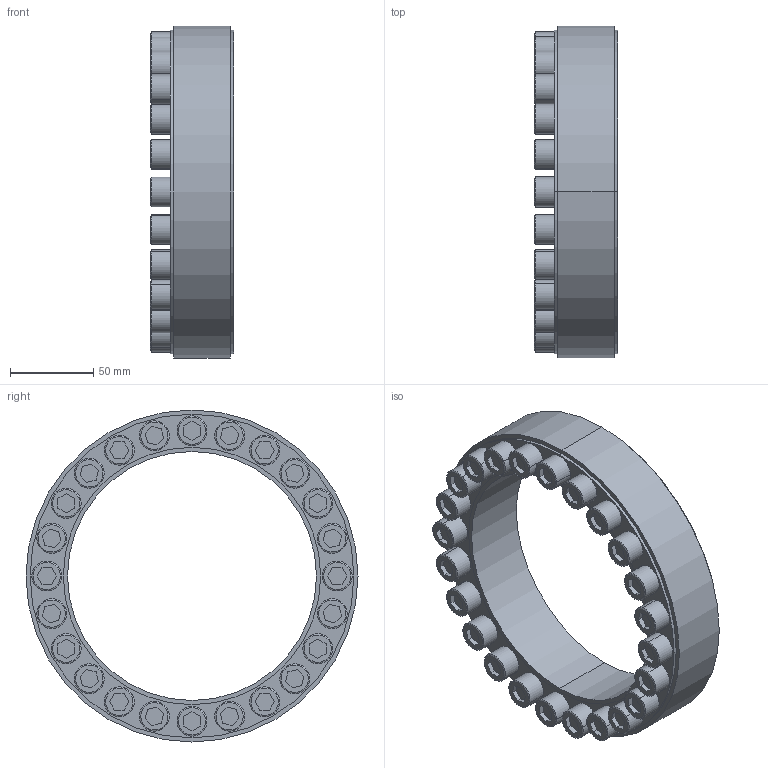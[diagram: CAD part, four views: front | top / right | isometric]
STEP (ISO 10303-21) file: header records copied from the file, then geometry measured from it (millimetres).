
FILE_DESCRIPTION (( 'STEP AP203' ), '1' );
FILE_NAME ('SA-150.step', '2009-09-29T15:22:56', ( 'USER' ), ( 'HOME' ), 'SwSTEP 2.0', 'SolidWorks 2007', '' );
FILE_SCHEMA (( 'CONFIG_CONTROL_DESIGN' ));
Length unit declared in the file: millimetre
Products named in the file (1): SA-150
Bounding box: 50 x 200 x 200 mm (x, y, z)
Volume: 584225 mm3; surface area: 229487.2 mm2
Topology: 27 solids, 27 shells, 458 faces, 1012 edges, 656 vertices
Faces by surface type: plane 246, cylinder 148, cone 64
Entity records: 12769 total; most frequent: DIRECTION 2298, CARTESIAN_POINT 2127, ORIENTED_EDGE 2024, EDGE_CURVE 1012, AXIS2_PLACEMENT_3D 827, VERTEX_POINT 656, VECTOR 644, LINE 644
